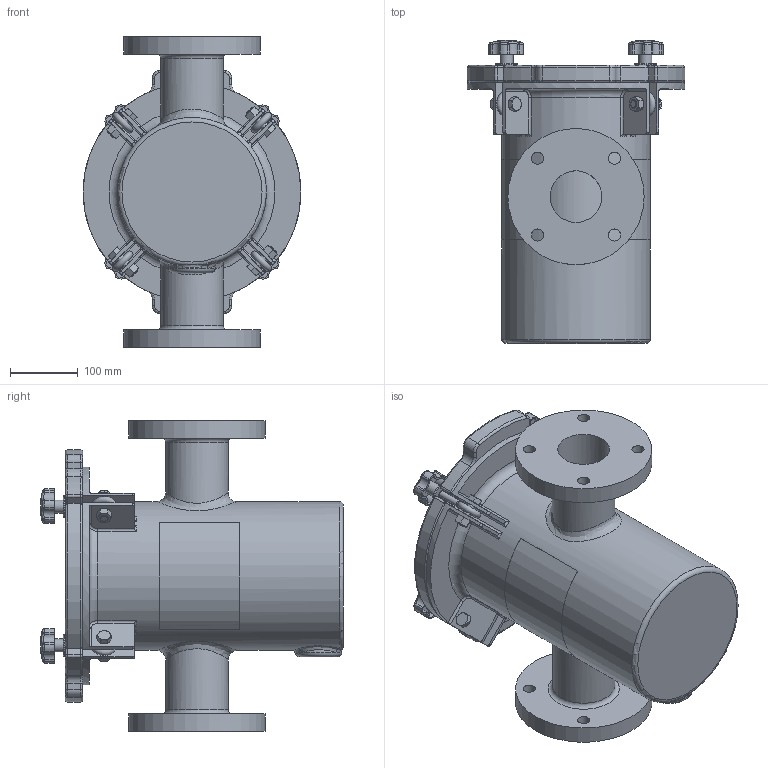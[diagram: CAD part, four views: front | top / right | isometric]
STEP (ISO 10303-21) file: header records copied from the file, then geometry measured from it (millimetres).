
FILE_DESCRIPTION(/* description */ ('STRAINER BODY'),/* implementation_level */ '2;1');
FILE_NAME(/* name */ '\\chntshnas1\IP_PUMPS\NeptuneBenson\Project Execution\WIP\Ready for delivery - Do not Disturb -Updated with metric Flange\Workspace\FG Straight Strainer\150NBFG03X03-MM.stp',/* time_stamp */ '2016-10-18T19:43:39+05:00',/* author */ ('20076253'),/* organization */ (''),/* preprocessor_version */ 'ST-DEVELOPER v16.1',/* originating_system */ 'Autodesk Inventor 2016',/* authorisation */ '');
FILE_SCHEMA (('AUTOMOTIVE_DESIGN { 1 0 10303 214 3 1 1 }'));
Length unit declared in the file: inch
Products named in the file (18): NBFGBODY03X03MM; 150NBCVR13R1; 150NBGSK08R1; Perforated Basket 8in; Bride (Ring) 8in; Baffle 8in; Handle 8in; Bottom Strainer 8in; NBBSK04T316; Nut- 1_2  UNC; Bolt-1_2 x 1 1_2  UNC; EyeBolt; Washer; Knob M10; Securing Assembly For FG without Brace; Label for 8.625 inch (Right)_FG; Label for 8.625 inch (Left)_FG; Guardian FG H&L Strainer (Metric)
Assembly tree (20 placements, depth 3):
  Guardian FG H&L Strainer (Metric)
    NBFGBODY03X03MM
    150NBCVR13R1
    150NBGSK08R1
    NBBSK04T316
      Perforated Basket 8in
      Bride (Ring) 8in
      Baffle 8in
      Handle 8in
      Bottom Strainer 8in
    Securing Assembly For FG without Brace  x4
      Nut- 1_2  UNC
      Bolt-1_2 x 1 1_2  UNC
      EyeBolt
      Washer
      Knob M10
    Label for 8.625 inch (Right)_FG
    Label for 8.625 inch (Left)_FG
Bounding box: 320.68 x 446.18 x 457.2 mm (x, y, z)
Volume: 7347442.1 mm3; surface area: 1732137.3 mm2
Topology: 30 solids, 30 shells, 922 faces, 2114 edges, 1254 vertices
Faces by surface type: cylinder 336, plane 248, torus 93, cone 92, bspline 85, sphere 68
Full cylindrical faces by diameter (mm): 3.175 x10, 6.35 x1, 8.382 x4, 9.525 x8, 10.592 x4, 12.7 x4, 15.875 x8, 17.78 x8, 19 x8, 19.05 x4, 22.809 x1, 31.75 x4, 76.2 x2, 92.075 x2, 142.875 x2, 146.05 x1, 148.59 x1, 200.66 x2, 203.2 x2, 212.725 x1, 219.075 x1, 222.25 x1, 257.175 x1, 263.525 x1
Entity records: 20306 total; most frequent: CARTESIAN_POINT 7029, DIRECTION 2759, ORIENTED_EDGE 2472, EDGE_CURVE 1236, AXIS2_PLACEMENT_3D 1163, VERTEX_POINT 784, EDGE_LOOP 712, CIRCLE 572
